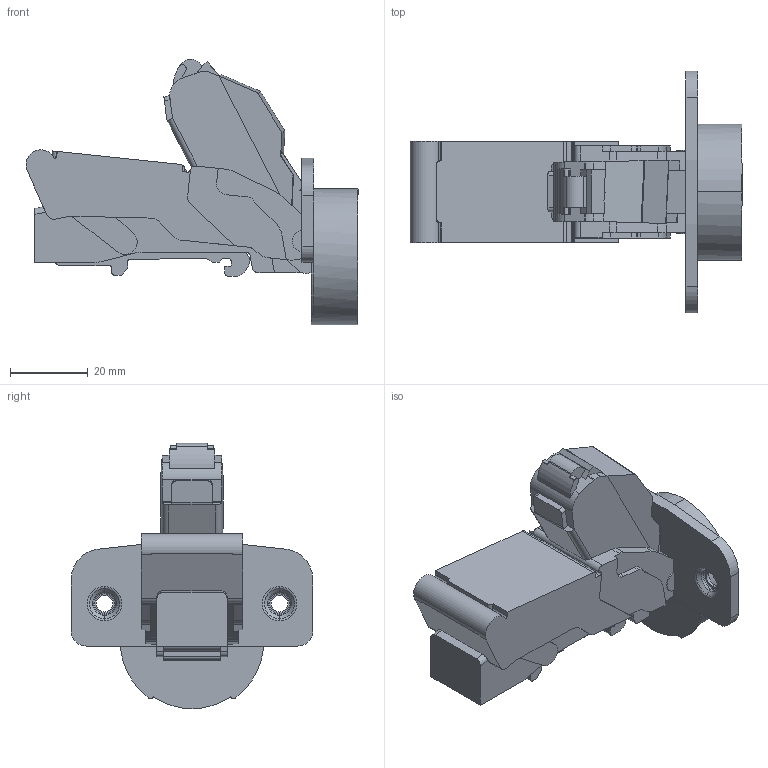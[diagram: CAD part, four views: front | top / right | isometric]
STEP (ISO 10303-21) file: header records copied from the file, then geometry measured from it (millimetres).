
FILE_DESCRIPTION (( 'STEP AP203' ), '1' );
FILE_NAME ('C80A605F-DTC3D close.STEP', '2021-04-10T05:35:06', ( '' ), ( '' ), 'SwSTEP 2.0', 'SolidWorks 2018', '' );
FILE_SCHEMA (( 'CONFIG_CONTROL_DESIGN' ));
Length unit declared in the file: millimetre
Products named in the file (1): C80A605F-DTC3D close
Bounding box: 85.37 x 62.2 x 68.24 mm (x, y, z)
Volume: 65443.4 mm3; surface area: 16135.6 mm2
Topology: 1 solids, 2 shells, 334 faces, 956 edges, 628 vertices
Faces by surface type: plane 178, cylinder 117, bspline 23, torus 12, cone 4
Entity records: 11180 total; most frequent: CARTESIAN_POINT 2381, ORIENTED_EDGE 1912, DIRECTION 1772, EDGE_CURVE 956, VERTEX_POINT 628, VECTOR 628, LINE 628, AXIS2_PLACEMENT_3D 572
